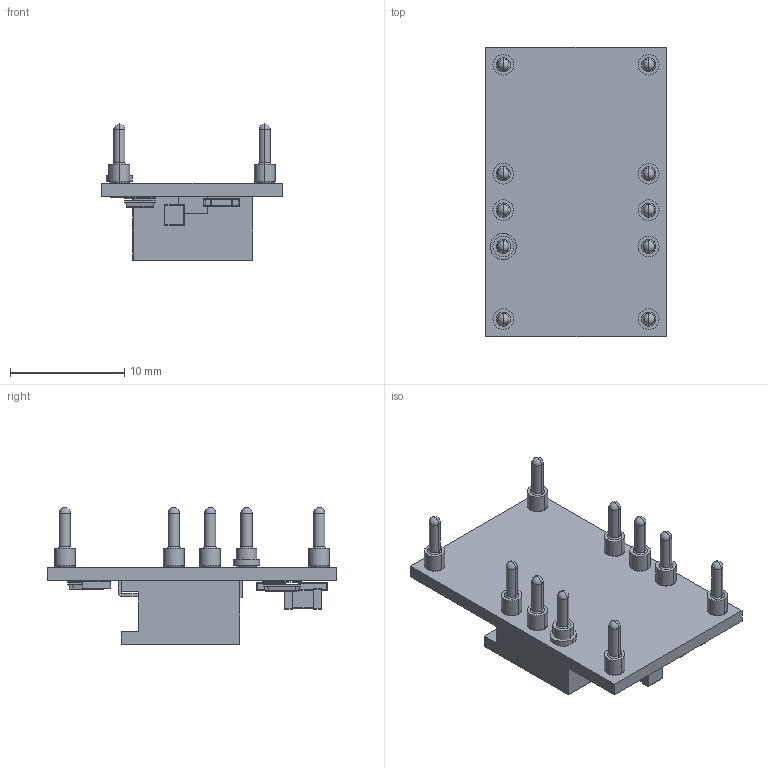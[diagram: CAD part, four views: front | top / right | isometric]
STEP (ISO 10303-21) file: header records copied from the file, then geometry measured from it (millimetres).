
FILE_DESCRIPTION((''),'2;1');
FILE_NAME('PTH12060W_TH_MM.stp','2019-01-10T13:28:52',(''),(''),'Mechanical Desktop 2009','Mechanical Desktop 2009',', , ');
FILE_SCHEMA(('CONFIG_CONTROL_DESIGN'));
Length unit declared in the file: millimetre
Products named in the file (26): PTH12060W_TH_MM; BASE; METAL; PCB; 1210_C; ~BODY; SIDE; ~SOLDER; ~~XFMR; XFMRLEG; XFMRLEG2; ~~~~~~~~~~PART1; ~PART3; ~~~SOLDER; PTH08T220_ SMT; PIN04; PIN06; PIN040; Wchip; CAP0603; CAP1206; CAP0805; WXFMR; CAP402; TSSOP28; PIN SMT
Assembly tree (61 placements, depth 3):
  PTH12060W_TH_MM
    BASE  x4
    METAL  x4
    PCB
    1210_C  x3
      ~BODY
      SIDE
    ~SOLDER  x14
    ~~XFMR
    XFMRLEG
    XFMRLEG2  x2
    ~~~~~~~~~~PART1
    ~PART3  x10
    ~~~SOLDER  x3
    PTH08T220_ SMT
      PIN04
      PIN06
      PIN040
      Wchip  x2
      CAP0603
      CAP1206  x2
      CAP0805
      WXFMR
      CAP402
      TSSOP28
      PIN SMT
Bounding box: 15.75 x 25.27 x 11.96 mm (x, y, z)
Volume: 1143.7 mm3; surface area: 2080.4 mm2
Topology: 67 solids, 67 shells, 829 faces, 1811 edges, 1060 vertices
Faces by surface type: plane 411, cylinder 250, bspline 64, sphere 64, torus 20, cone 20
Entity records: 8460 total; most frequent: CARTESIAN_POINT 2051, DIRECTION 1339, ORIENTED_EDGE 1132, EDGE_CURVE 566, AXIS2_PLACEMENT_3D 491, VECTOR 357, LINE 357, VERTEX_POINT 353
